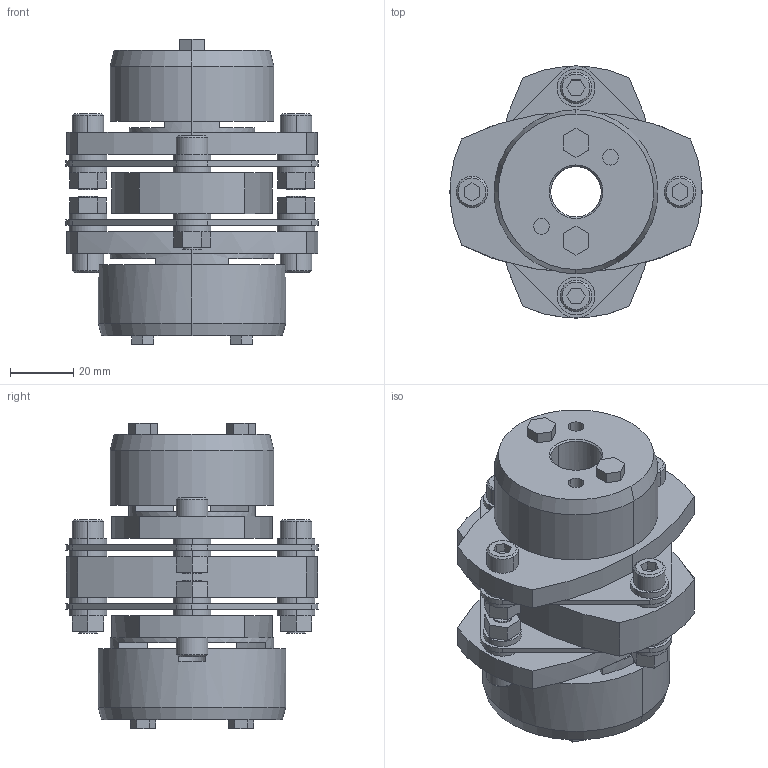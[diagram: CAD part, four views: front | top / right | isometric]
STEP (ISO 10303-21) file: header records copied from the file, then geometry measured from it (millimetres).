
FILE_DESCRIPTION((''),'2;1');
FILE_NAME('LCD-80T7-16×32.stp','2015-10-31T17:26:47',(''),(''),'AutoCAD STEP 2000i','AutoCAD 2000i',', , ');
FILE_SCHEMA(('CONFIG_CONTROL_DESIGN'));
Length unit declared in the file: millimetre
Products named in the file (11): LCD-80T7-17×32; 忣兜1; LC80T7-T032; LC80T7-T030; LC80T7-T028; LC80T7-T024; LC80T7-T022; LC80T7-T019; LC80T7-T017-1; LC80T7-T017; LCD80-ITA
Assembly tree (10 placements, depth 2):
  LCD-80T7-17×32
    忣兜1
    LC80T7-T032
    LC80T7-T030
    LC80T7-T028
    LC80T7-T024
    LC80T7-T022
    LC80T7-T019
    LC80T7-T017-1
    LC80T7-T017
    LCD80-ITA
Bounding box: 80 x 79.95 x 96.8 mm (x, y, z)
Volume: 183208.5 mm3; surface area: 57728.7 mm2
Topology: 1 solids, 1 shells, 327 faces, 800 edges, 524 vertices
Faces by surface type: plane 181, cylinder 122, cone 24
Entity records: 9953 total; most frequent: DIRECTION 1772, CARTESIAN_POINT 1662, ORIENTED_EDGE 1600, EDGE_CURVE 800, AXIS2_PLACEMENT_3D 634, VERTEX_POINT 524, VECTOR 504, LINE 504
